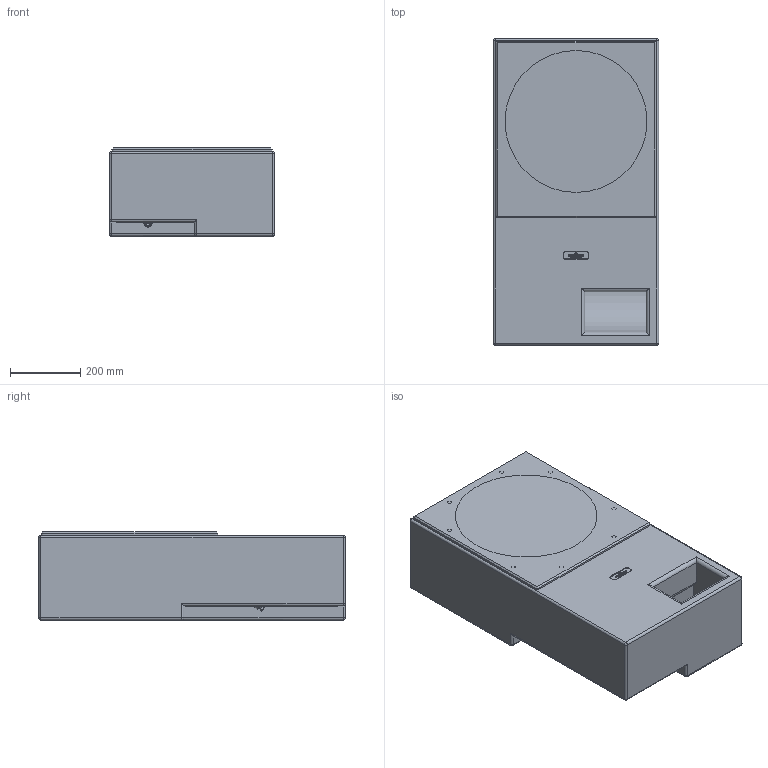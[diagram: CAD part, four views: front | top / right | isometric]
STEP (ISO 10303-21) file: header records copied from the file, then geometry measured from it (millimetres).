
FILE_DESCRIPTION(/* description */ (''),/* implementation_level */ '2;1');
FILE_NAME(/* name */ 'THE15 PRO ON WALL +PASSIVE+ACTIVE EXT+BE+ .step',/* time_stamp */ '2025-04-02T10:30:32+02:00',/* author */ (''),/* organization */ (''),/* preprocessor_version */ 'ST-DEVELOPER v20.1',/* originating_system */ 'Autodesk Translation Framework v14.4.0.0',/* authorisation */ '');
FILE_SCHEMA (('AUTOMOTIVE_DESIGN { 1 0 10303 214 3 1 1 }'));
Products named in the file (3): The15 (Be) PRO ON WALL 3D; COMBINE_fullSpkr; COMBINE_Grille
Assembly tree (2 placements, depth 2):
  The15 (Be) PRO ON WALL 3D
    COMBINE_fullSpkr
    COMBINE_Grille
Bounding box: 470 x 870 x 250.2 mm (x, y, z)
Volume: 86822217.3 mm3; surface area: 2314329.1 mm2
Topology: 12 solids, 35 shells, 2633 faces, 6769 edges, 4354 vertices
Faces by surface type: plane 1188, cylinder 748, bspline 395, cone 165, torus 114, sphere 23
Full cylindrical faces by diameter (mm): 1.2 x3, 3 x10, 3.2 x4, 3.5 x4, 4 x26, 4.5 x6, 5 x13, 5.5 x6, 6 x10, 8.4 x4, 8.5 x12, 12 x8, 14.9 x1, 17.6 x1, 21 x1, 23.6 x3, 24 x2, 24.25 x1, 25.9 x1, 26.5 x1, 30 x3, 306 x1, 387 x1, 395 x2
Entity records: 86296 total; most frequent: CARTESIAN_POINT 22265, ORIENTED_EDGE 13512, DIRECTION 12722, EDGE_CURVE 6756, AXIS2_PLACEMENT_3D 4484, VERTEX_POINT 4355, LINE 3754, VECTOR 3754
